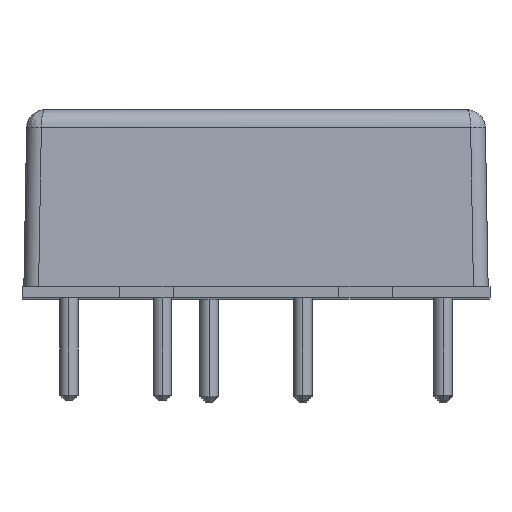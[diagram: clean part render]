
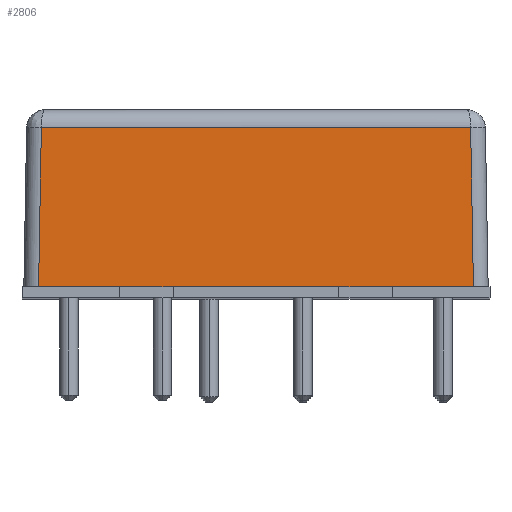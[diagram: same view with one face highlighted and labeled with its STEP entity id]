
A CAD part, top view. The second image highlights one B-rep face of the part: STEP entity #2806.
In plain terms, the highlighted planar face has unit normal (0, 0.018, 1).
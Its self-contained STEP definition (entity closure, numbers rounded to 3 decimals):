
#64 = LINE ( 'NONE', #2104, #2192 ) ;
#123 = LINE ( 'NONE', #1192, #503 ) ;
#211 = ORIENTED_EDGE ( 'NONE', *, *, #1488, .F. ) ;
#319 = CARTESIAN_POINT ( 'NONE',  ( 11.8, 0.6, 25.25 ) ) ;
#372 = ORIENTED_EDGE ( 'NONE', *, *, #1393, .T. ) ;
#391 = ORIENTED_EDGE ( 'NONE', *, *, #1472, .T. ) ;
#407 = LINE ( 'NONE', #1717, #2674 ) ;
#435 = VERTEX_POINT ( 'NONE', #319 ) ;
#503 = VECTOR ( 'NONE', #1302, 1000. ) ;
#540 = ORIENTED_EDGE ( 'NONE', *, *, #1328, .T. ) ;
#735 = CARTESIAN_POINT ( 'NONE',  ( -7.4, 0.6, 25.25 ) ) ;
#798 = CARTESIAN_POINT ( 'NONE',  ( 11.65, 9.217, 25.1 ) ) ;
#828 = CARTESIAN_POINT ( 'NONE',  ( -4.5, 0.6, 25.25 ) ) ;
#1095 = ORIENTED_EDGE ( 'NONE', *, *, #1476, .F. ) ;
#1103 = CARTESIAN_POINT ( 'NONE',  ( -11.65, 9.217, 25.1 ) ) ;
#1118 = DIRECTION ( 'NONE',  ( -0.017, -1., 0.017 ) ) ;
#1150 = VERTEX_POINT ( 'NONE', #798 ) ;
#1192 = CARTESIAN_POINT ( 'NONE',  ( 11.8, 0.6, 25.25 ) ) ;
#1197 = VERTEX_POINT ( 'NONE', #828 ) ;
#1282 = VECTOR ( 'NONE', #1710, 1000. ) ;
#1302 = DIRECTION ( 'NONE',  ( -0.017, 1., -0.017 ) ) ;
#1304 = EDGE_LOOP ( 'NONE', ( #391, #1391, #2857, #372, #540, #1095, #1713, #211 ) ) ;
#1328 = EDGE_CURVE ( 'NONE', #2587, #1613, #1501, .T. ) ;
#1374 = EDGE_CURVE ( 'NONE', #435, #1150, #123, .T. ) ;
#1391 = ORIENTED_EDGE ( 'NONE', *, *, #1475, .F. ) ;
#1393 = EDGE_CURVE ( 'NONE', #1150, #2587, #2038, .T. ) ;
#1424 = AXIS2_PLACEMENT_3D ( 'NONE', #2695, #2686, #2530 ) ;
#1445 = CARTESIAN_POINT ( 'NONE',  ( -12.6, 9.217, 25.1 ) ) ;
#1446 = VECTOR ( 'NONE', #1866, 1000. ) ;
#1454 = DIRECTION ( 'NONE',  ( -1., 0., 0. ) ) ;
#1472 = EDGE_CURVE ( 'NONE', #2322, #1729, #2224, .T. ) ;
#1475 = EDGE_CURVE ( 'NONE', #435, #1729, #1715, .T. ) ;
#1476 = EDGE_CURVE ( 'NONE', #2733, #1613, #407, .T. ) ;
#1484 = EDGE_CURVE ( 'NONE', #2733, #1197, #64, .T. ) ;
#1488 = EDGE_CURVE ( 'NONE', #2322, #1197, #2710, .T. ) ;
#1501 = LINE ( 'NONE', #1103, #1801 ) ;
#1594 = VECTOR ( 'NONE', #1878, 1000. ) ;
#1613 = VERTEX_POINT ( 'NONE', #2368 ) ;
#1674 = CARTESIAN_POINT ( 'NONE',  ( -12.6, 0.6, 25.25 ) ) ;
#1706 = CARTESIAN_POINT ( 'NONE',  ( -12.7, 0.6, 25.25 ) ) ;
#1710 = DIRECTION ( 'NONE',  ( -1., 0., 0. ) ) ;
#1713 = ORIENTED_EDGE ( 'NONE', *, *, #1484, .T. ) ;
#1715 = LINE ( 'NONE', #1706, #1282 ) ;
#1717 = CARTESIAN_POINT ( 'NONE',  ( -12.7, 0.6, 25.25 ) ) ;
#1721 = CARTESIAN_POINT ( 'NONE',  ( -12.7, 0.6, 25.25 ) ) ;
#1722 = DIRECTION ( 'NONE',  ( -1., 0., 0. ) ) ;
#1729 = VERTEX_POINT ( 'NONE', #2594 ) ;
#1801 = VECTOR ( 'NONE', #1118, 1000. ) ;
#1866 = DIRECTION ( 'NONE',  ( 1., 0., 0. ) ) ;
#1878 = DIRECTION ( 'NONE',  ( -1., 0., 0. ) ) ;
#1921 = DIRECTION ( 'NONE',  ( 1., 0., 0. ) ) ;
#2038 = LINE ( 'NONE', #1445, #2120 ) ;
#2104 = CARTESIAN_POINT ( 'NONE',  ( -12.6, 0.6, 25.25 ) ) ;
#2120 = VECTOR ( 'NONE', #1454, 1000. ) ;
#2192 = VECTOR ( 'NONE', #1921, 1000. ) ;
#2224 = LINE ( 'NONE', #1674, #1446 ) ;
#2322 = VERTEX_POINT ( 'NONE', #2659 ) ;
#2368 = CARTESIAN_POINT ( 'NONE',  ( -11.8, 0.6, 25.25 ) ) ;
#2406 = FACE_OUTER_BOUND ( 'NONE', #1304, .T. ) ;
#2427 = CARTESIAN_POINT ( 'NONE',  ( -11.65, 9.217, 25.1 ) ) ;
#2530 = DIRECTION ( 'NONE',  ( 0., -1., 0.017 ) ) ;
#2587 = VERTEX_POINT ( 'NONE', #2427 ) ;
#2594 = CARTESIAN_POINT ( 'NONE',  ( 7.4, 0.6, 25.25 ) ) ;
#2659 = CARTESIAN_POINT ( 'NONE',  ( 4.5, 0.6, 25.25 ) ) ;
#2674 = VECTOR ( 'NONE', #1722, 1000. ) ;
#2686 = DIRECTION ( 'NONE',  ( 0., 0.017, 1. ) ) ;
#2695 = CARTESIAN_POINT ( 'NONE',  ( -12.6, 0.6, 25.25 ) ) ;
#2710 = LINE ( 'NONE', #1721, #1594 ) ;
#2733 = VERTEX_POINT ( 'NONE', #735 ) ;
#2806 = ADVANCED_FACE ( 'NONE', ( #2406 ), #2849, .T. ) ;
#2849 = PLANE ( 'NONE',  #1424 ) ;
#2857 = ORIENTED_EDGE ( 'NONE', *, *, #1374, .T. ) ;
